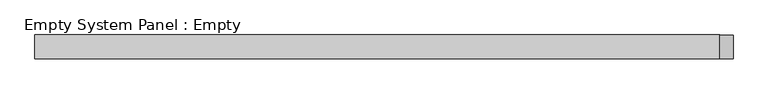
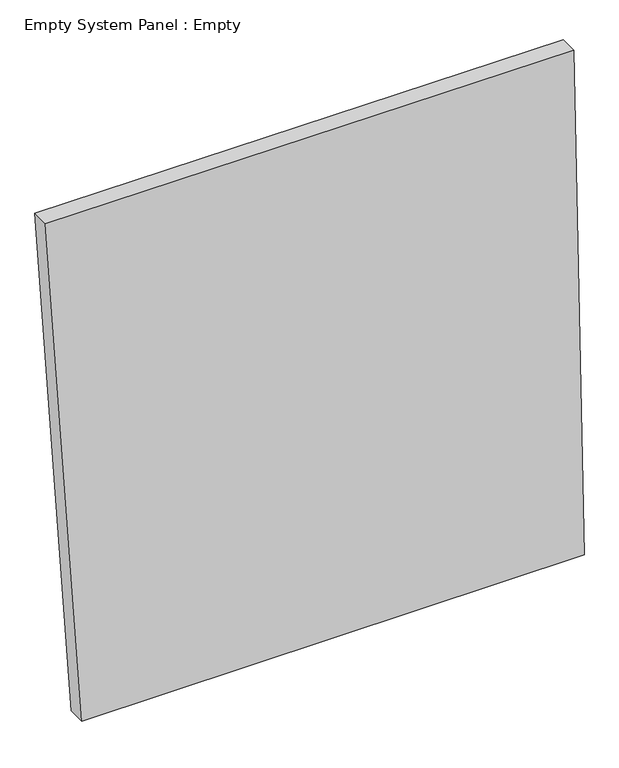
"""IFC4 building model written with IfcOpenShell, lengths in millimetres: plate geometry, Empty System Panel : Empty."""

from ifc_helpers import new_model, si_unit, frame, origin, place, context, project, spatial, polyline, outline, extrude, source, transform, mapped, element, save


def empty_system_panel_empty_5d1490b2(model_context):
    return source(origin(), model_context, "Body", "SweptSolid", [
        extrude(outline(polyline([(0.0, -1293.0003071), (0.0, 1495.6121106), (2981.1212891, 1439.1885845), (2990.9217773, -1495.6121106), (0.0, -1293.0003071)])), frame((0.0, -50.8, 0.0), z_axis=(0.0, 1.0, 0.0), x_axis=(0.0, 0.0, 1.0)), (0.0, 0.0, 1.0), 101.6),
    ])


if __name__ == "__main__":
    model = new_model("IFC4")
    model_context = context("Model", 3, world=origin())
    ifc_project = project(units=[si_unit("LENGTHUNIT", "METRE", prefix="MILLI")], contexts=[model_context])
    site = spatial("IfcSite", under=ifc_project)
    building = spatial("IfcBuilding", under=site)
    placement = place(None, origin())
    empty_system_panel_empty_shape = empty_system_panel_empty_5d1490b2(model_context)
    element("IfcPlate", 1, ObjectType="Empty System Panel : Empty", at=placement, inside=building, context=model_context, shape_type="MappedRepresentation", body=[
        mapped(empty_system_panel_empty_shape, transform((0.0, 0.0, 0.0), x_axis=(1.0, 0.0, 0.0), y_axis=(0.0, 1.0, 0.0), z_axis=(0.0, 0.0, 1.0))),
    ])
    save(model, "model.ifc")
